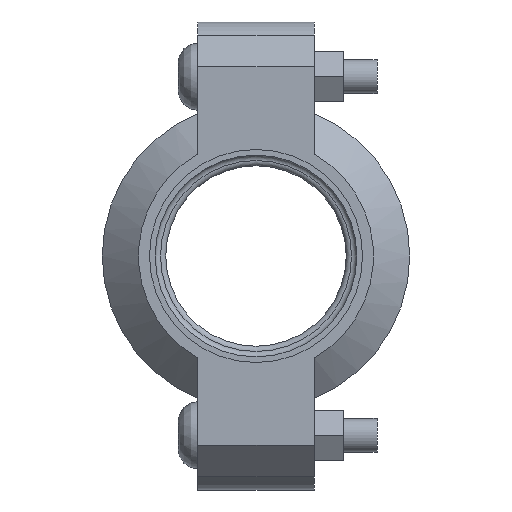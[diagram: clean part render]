
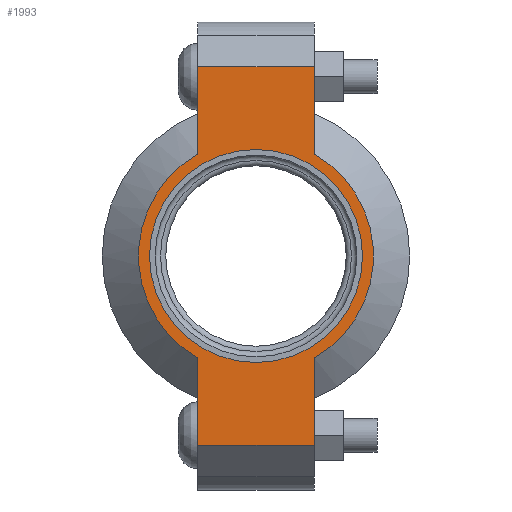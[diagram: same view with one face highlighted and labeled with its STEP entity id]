
A CAD part, left-side view. The second image highlights one B-rep face of the part: STEP entity #1993.
In plain terms, the highlighted planar face has unit normal (-1, 0, 0) as drawn and (0, 0, 1) by its records, which use the part's own axes.
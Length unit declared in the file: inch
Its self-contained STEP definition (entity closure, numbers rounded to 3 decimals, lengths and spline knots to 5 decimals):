
#126=LINE('',#3556,#225);
#134=LINE('',#3592,#233);
#141=LINE('',#3613,#240);
#150=LINE('',#3645,#249);
#151=LINE('',#3649,#250);
#152=LINE('',#3651,#251);
#225=VECTOR('',#2922,0.3937);
#233=VECTOR('',#2938,0.3937);
#240=VECTOR('',#2957,0.3937);
#249=VECTOR('',#2982,0.3937);
#250=VECTOR('',#2987,0.3937);
#251=VECTOR('',#2988,0.3937);
#311=FACE_BOUND('',#581,.T.);
#357=PLANE('',#2358);
#453=FACE_OUTER_BOUND('',#580,.T.);
#580=EDGE_LOOP('',(#1722,#1723,#1724,#1725,#1726,#1727,#1728,#1729));
#581=EDGE_LOOP('',(#1730));
#728=CIRCLE('',#2300,1.1875);
#754=CIRCLE('',#2359,1.31);
#755=CIRCLE('',#2360,1.31);
#879=VERTEX_POINT('',#3372);
#922=VERTEX_POINT('',#3553);
#923=VERTEX_POINT('',#3555);
#934=VERTEX_POINT('',#3587);
#935=VERTEX_POINT('',#3591);
#942=VERTEX_POINT('',#3610);
#943=VERTEX_POINT('',#3612);
#953=VERTEX_POINT('',#3648);
#954=VERTEX_POINT('',#3650);
#1116=EDGE_CURVE('',#879,#879,#728,.T.);
#1177=EDGE_CURVE('',#923,#922,#126,.T.);
#1191=EDGE_CURVE('',#935,#934,#134,.T.);
#1201=EDGE_CURVE('',#943,#942,#141,.T.);
#1216=EDGE_CURVE('',#935,#922,#150,.T.);
#1217=EDGE_CURVE('',#934,#943,#754,.T.);
#1218=EDGE_CURVE('',#953,#942,#151,.T.);
#1219=EDGE_CURVE('',#953,#954,#152,.T.);
#1220=EDGE_CURVE('',#954,#923,#755,.T.);
#1722=ORIENTED_EDGE('',*,*,#1216,.F.);
#1723=ORIENTED_EDGE('',*,*,#1191,.T.);
#1724=ORIENTED_EDGE('',*,*,#1217,.T.);
#1725=ORIENTED_EDGE('',*,*,#1201,.T.);
#1726=ORIENTED_EDGE('',*,*,#1218,.F.);
#1727=ORIENTED_EDGE('',*,*,#1219,.T.);
#1728=ORIENTED_EDGE('',*,*,#1220,.T.);
#1729=ORIENTED_EDGE('',*,*,#1177,.T.);
#1730=ORIENTED_EDGE('',*,*,#1116,.T.);
#1993=ADVANCED_FACE('',(#453,#311),#357,.T.);
#2300=AXIS2_PLACEMENT_3D('',#3374,#2798,#2799);
#2358=AXIS2_PLACEMENT_3D('',#3646,#2983,#2984);
#2359=AXIS2_PLACEMENT_3D('',#3647,#2985,#2986);
#2360=AXIS2_PLACEMENT_3D('',#3652,#2989,#2990);
#2798=DIRECTION('center_axis',(0.,0.,-1.));
#2799=DIRECTION('ref_axis',(1.,0.,0.));
#2922=DIRECTION('',(1.,0.,0.));
#2938=DIRECTION('',(-1.,0.,0.));
#2957=DIRECTION('',(-1.,0.,0.));
#2982=DIRECTION('',(0.,-1.,0.));
#2983=DIRECTION('center_axis',(0.,0.,1.));
#2984=DIRECTION('ref_axis',(-1.,0.,0.));
#2985=DIRECTION('center_axis',(0.,0.,1.));
#2986=DIRECTION('ref_axis',(1.,0.,0.));
#2987=DIRECTION('',(0.,1.,0.));
#2988=DIRECTION('',(1.,0.,0.));
#2989=DIRECTION('center_axis',(0.,0.,1.));
#2990=DIRECTION('ref_axis',(1.,0.,0.));
#3372=CARTESIAN_POINT('',(-1.1875,0.,0.94));
#3374=CARTESIAN_POINT('Origin',(0.,0.,0.94));
#3553=CARTESIAN_POINT('',(2.11,-0.65,0.94));
#3555=CARTESIAN_POINT('',(1.13737,-0.65,0.94));
#3556=CARTESIAN_POINT('',(2.61,-0.65,0.94));
#3587=CARTESIAN_POINT('',(1.13737,0.65,0.94));
#3591=CARTESIAN_POINT('',(2.11,0.65,0.94));
#3592=CARTESIAN_POINT('',(-2.61,0.65,0.94));
#3610=CARTESIAN_POINT('',(-2.11,0.65,0.94));
#3612=CARTESIAN_POINT('',(-1.13737,0.65,0.94));
#3613=CARTESIAN_POINT('',(-2.61,0.65,0.94));
#3645=CARTESIAN_POINT('',(2.11,-0.325,0.94));
#3646=CARTESIAN_POINT('Origin',(0.,0.,
0.94));
#3647=CARTESIAN_POINT('Origin',(0.,0.,0.94));
#3648=CARTESIAN_POINT('',(-2.11,-0.65,0.94));
#3649=CARTESIAN_POINT('',(-2.11,0.325,0.94));
#3650=CARTESIAN_POINT('',(-1.13737,-0.65,0.94));
#3651=CARTESIAN_POINT('',(2.61,-0.65,0.94));
#3652=CARTESIAN_POINT('Origin',(0.,0.,0.94));
